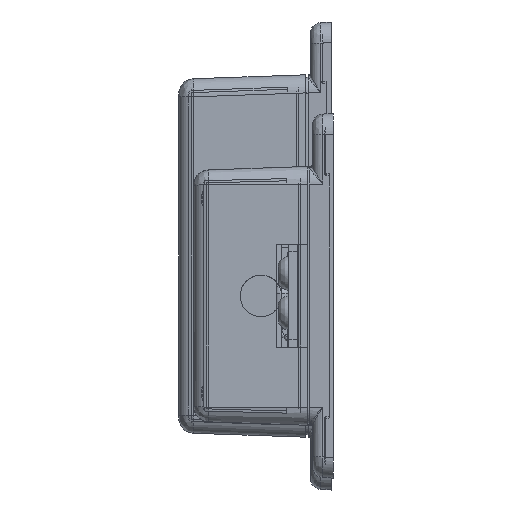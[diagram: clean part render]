
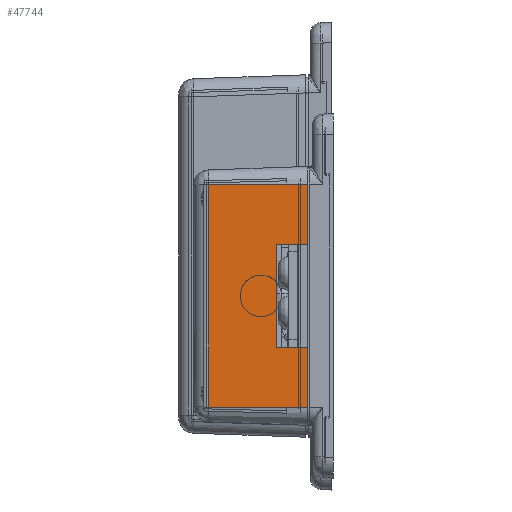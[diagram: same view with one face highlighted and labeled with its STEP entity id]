
A CAD part, left-side view. The second image highlights one B-rep face of the part: STEP entity #47744.
In plain terms, the highlighted planar face has unit normal (-0.999, 0.035, 0) as drawn and (-0.999, 0, 0.035) by its records, which use the part's own axes.
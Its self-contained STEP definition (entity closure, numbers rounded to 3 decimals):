
#3897=PLANE('',#51556);
#6344=FACE_OUTER_BOUND('',#9144,.T.);
#9144=EDGE_LOOP('',(#41461,#41462,#41463,#41464,#41465,#41466,#41467,#41468));
#13601=LINE('',#81393,#18705);
#13604=LINE('',#81399,#18708);
#13608=LINE('',#81406,#18712);
#13609=LINE('',#81409,#18713);
#13610=LINE('',#81411,#18714);
#13611=LINE('',#81413,#18715);
#13612=LINE('',#81415,#18716);
#13613=LINE('',#81416,#18717);
#18705=VECTOR('',#61478,10.);
#18708=VECTOR('',#61483,10.);
#18712=VECTOR('',#61489,10.);
#18713=VECTOR('',#61492,43.);
#18714=VECTOR('',#61493,19.116);
#18715=VECTOR('',#61494,43.);
#18716=VECTOR('',#61495,19.116);
#18717=VECTOR('',#61496,43.);
#23611=VERTEX_POINT('',#81390);
#23612=VERTEX_POINT('',#81392);
#23614=VERTEX_POINT('',#81398);
#23616=VERTEX_POINT('',#81404);
#23617=VERTEX_POINT('',#81408);
#23618=VERTEX_POINT('',#81410);
#23619=VERTEX_POINT('',#81412);
#23620=VERTEX_POINT('',#81414);
#29765=EDGE_CURVE('',#23612,#23611,#13601,.T.);
#29768=EDGE_CURVE('',#23614,#23612,#13604,.T.);
#29772=EDGE_CURVE('',#23611,#23616,#13608,.T.);
#29773=EDGE_CURVE('',#23616,#23617,#13609,.T.);
#29774=EDGE_CURVE('',#23617,#23618,#13610,.T.);
#29775=EDGE_CURVE('',#23619,#23618,#13611,.T.);
#29776=EDGE_CURVE('',#23620,#23619,#13612,.T.);
#29777=EDGE_CURVE('',#23620,#23614,#13613,.T.);
#41461=ORIENTED_EDGE('',*,*,#29772,.T.);
#41462=ORIENTED_EDGE('',*,*,#29773,.T.);
#41463=ORIENTED_EDGE('',*,*,#29774,.T.);
#41464=ORIENTED_EDGE('',*,*,#29775,.F.);
#41465=ORIENTED_EDGE('',*,*,#29776,.F.);
#41466=ORIENTED_EDGE('',*,*,#29777,.T.);
#41467=ORIENTED_EDGE('',*,*,#29768,.T.);
#41468=ORIENTED_EDGE('',*,*,#29765,.T.);
#47744=ADVANCED_FACE('',(#6344),#3897,.T.);
#51556=AXIS2_PLACEMENT_3D('',#81407,#61490,#61491);
#61478=DIRECTION('',(0.,-1.,0.));
#61483=DIRECTION('',(0.035,0.,0.999));
#61489=DIRECTION('',(-0.035,0.,-0.999));
#61490=DIRECTION('center_axis',(-0.999,0.,0.035));
#61491=DIRECTION('ref_axis',(0.,-1.,0.));
#61492=DIRECTION('',(0.,-1.,0.));
#61493=DIRECTION('',(0.035,0.,0.999));
#61494=DIRECTION('',(0.,-1.,0.));
#61495=DIRECTION('',(0.035,0.,0.999));
#61496=DIRECTION('',(0.,-1.,0.));
#81390=CARTESIAN_POINT('',(-24.79,-10.,6.));
#81392=CARTESIAN_POINT('',(-24.79,10.,6.));
#81393=CARTESIAN_POINT('',(-24.79,-5.75,6.));
#81398=CARTESIAN_POINT('',(-25.,10.,0.));
#81399=CARTESIAN_POINT('',(-24.913,10.,2.5));
#81404=CARTESIAN_POINT('',(-25.,-10.,0.));
#81406=CARTESIAN_POINT('',(-24.911,-10.,2.535));
#81407=CARTESIAN_POINT('Origin',(-25.,-21.5,0.));
#81408=CARTESIAN_POINT('',(-25.,-21.5,0.));
#81409=CARTESIAN_POINT('',(-25.,21.5,0.));
#81410=CARTESIAN_POINT('',(-24.333,-21.5,19.105));
#81411=CARTESIAN_POINT('',(-25.,-21.5,0.));
#81412=CARTESIAN_POINT('',(-24.333,21.5,19.105));
#81413=CARTESIAN_POINT('',(-24.333,21.5,19.105));
#81414=CARTESIAN_POINT('',(-25.,21.5,0.));
#81415=CARTESIAN_POINT('',(-25.,21.5,0.));
#81416=CARTESIAN_POINT('',(-25.,21.5,0.));
